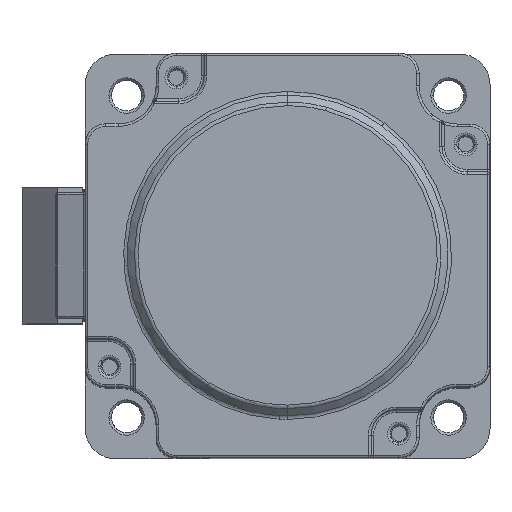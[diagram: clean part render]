
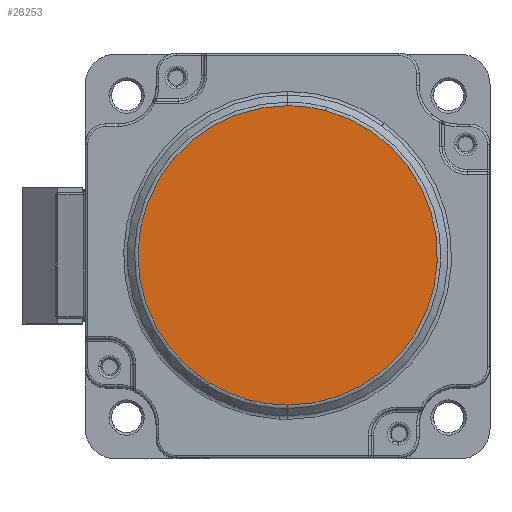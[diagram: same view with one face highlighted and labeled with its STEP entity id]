
A CAD part, top view. The second image highlights one B-rep face of the part: STEP entity #26253.
In plain terms, the highlighted planar face has unit normal (0, 0, 1).
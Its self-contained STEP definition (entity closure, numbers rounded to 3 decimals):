
#24259=CARTESIAN_POINT('Vertex',(7.503,28.618,130.2)) ;
#24266=CARTESIAN_POINT('Vertex',(0.,29.586,130.2)) ;
#24269=CARTESIAN_POINT('Axis2P3D Location',(0.,0.,130.2)) ;
#24286=CARTESIAN_POINT('Axis2P3D Location',(0.,0.,130.2)) ;
#24290=CARTESIAN_POINT('Vertex',(0.,-29.586,130.2)) ;
#24315=CARTESIAN_POINT('Vertex',(-15.539,-25.177,130.2)) ;
#24318=CARTESIAN_POINT('Axis2P3D Location',(0.,0.,130.2)) ;
#24336=CARTESIAN_POINT('Axis2P3D Location',(0.,0.,130.2)) ;
#26242=CARTESIAN_POINT('Axis2P3D Location',(0.,0.,130.2)) ;
#24270=DIRECTION('Axis2P3D Direction',(0.,0.,1.)) ;
#24287=DIRECTION('Axis2P3D Direction',(0.,0.,1.)) ;
#24319=DIRECTION('Axis2P3D Direction',(0.,-0.,1.)) ;
#24337=DIRECTION('Axis2P3D Direction',(0.,-0.,1.)) ;
#26243=DIRECTION('Axis2P3D Direction',(0.,0.,1.)) ;
#26244=DIRECTION('Axis2P3D XDirection',(0.,-1.,0.)) ;
#24271=AXIS2_PLACEMENT_3D('Circle Axis2P3D',#24269,#24270,$) ;
#24288=AXIS2_PLACEMENT_3D('Circle Axis2P3D',#24286,#24287,$) ;
#24320=AXIS2_PLACEMENT_3D('Circle Axis2P3D',#24318,#24319,$) ;
#24338=AXIS2_PLACEMENT_3D('Circle Axis2P3D',#24336,#24337,$) ;
#26245=AXIS2_PLACEMENT_3D('Plane Axis2P3D',#26242,#26243,#26244) ;
#26248=ORIENTED_EDGE('',*,*,#24340,.F.) ;
#26249=ORIENTED_EDGE('',*,*,#24322,.F.) ;
#26250=ORIENTED_EDGE('',*,*,#24292,.F.) ;
#26251=ORIENTED_EDGE('',*,*,#24273,.F.) ;
#26253=ADVANCED_FACE('\X2\524D7AEF76D6\X0\.1\\\X2\96F64EF651E04F554F53\X0\',(#26252),#26246,.T.) ;
#24272=CIRCLE('generated circle',#24271,29.586) ;
#24289=CIRCLE('generated circle',#24288,29.586) ;
#24321=CIRCLE('generated circle',#24320,29.586) ;
#24339=CIRCLE('generated circle',#24338,29.586) ;
#24273=EDGE_CURVE('',#24267,#24260,#24272,.F.) ;
#24292=EDGE_CURVE('',#24260,#24291,#24289,.F.) ;
#24322=EDGE_CURVE('',#24291,#24316,#24321,.F.) ;
#24340=EDGE_CURVE('',#24316,#24267,#24339,.F.) ;
#26247=EDGE_LOOP('',(#26248,#26249,#26250,#26251)) ;
#26252=FACE_OUTER_BOUND('',#26247,.T.) ;
#26246=PLANE('Plane',#26245) ;
#24260=VERTEX_POINT('',#24259) ;
#24267=VERTEX_POINT('',#24266) ;
#24291=VERTEX_POINT('',#24290) ;
#24316=VERTEX_POINT('',#24315) ;
